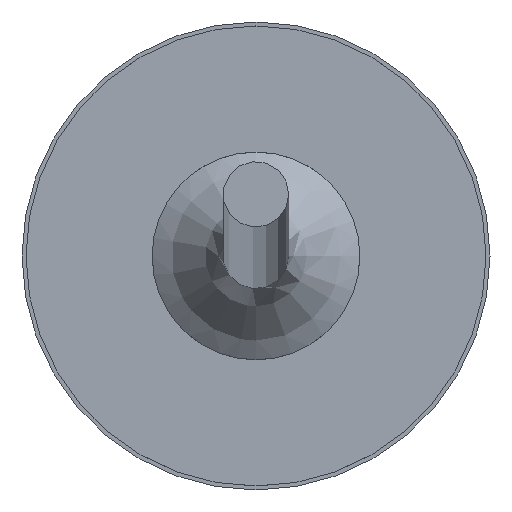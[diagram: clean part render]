
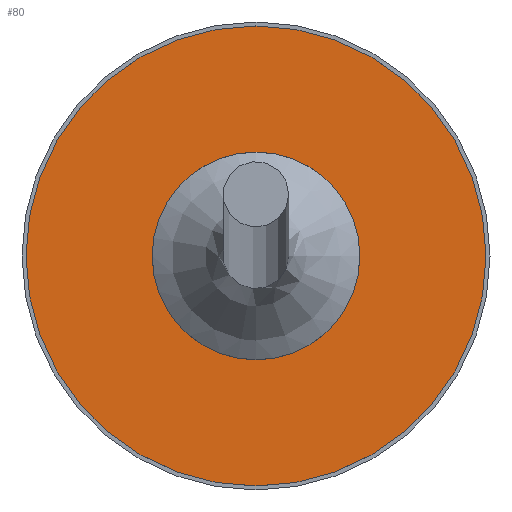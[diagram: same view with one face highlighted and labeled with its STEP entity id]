
A CAD part, top view. The second image highlights one B-rep face of the part: STEP entity #80.
In plain terms, the highlighted planar face has unit normal (0, 0, 1).
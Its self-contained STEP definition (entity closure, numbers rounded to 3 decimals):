
#59 = EDGE_CURVE('',#60,#60,#62,.T.);
#60 = VERTEX_POINT('',#61);
#61 = CARTESIAN_POINT('',(4.427,0.,0.));
#62 = CIRCLE('',#63,4.427);
#63 = AXIS2_PLACEMENT_3D('',#64,#65,#66);
#64 = CARTESIAN_POINT('',(0.,0.,0.));
#65 = DIRECTION('',(0.,0.,-1.));
#66 = DIRECTION('',(1.,0.,0.));
#80 = ADVANCED_FACE('',(#81,#84),#95,.T.);
#81 = FACE_BOUND('',#82,.T.);
#82 = EDGE_LOOP('',(#83));
#83 = ORIENTED_EDGE('',*,*,#59,.T.);
#84 = FACE_BOUND('',#85,.T.);
#85 = EDGE_LOOP('',(#86));
#86 = ORIENTED_EDGE('',*,*,#87,.F.);
#87 = EDGE_CURVE('',#88,#88,#90,.T.);
#88 = VERTEX_POINT('',#89);
#89 = CARTESIAN_POINT('',(9.802,0.,0.));
#90 = CIRCLE('',#91,9.802);
#91 = AXIS2_PLACEMENT_3D('',#92,#93,#94);
#92 = CARTESIAN_POINT('',(0.,0.,0.));
#93 = DIRECTION('',(0.,0.,-1.));
#94 = DIRECTION('',(1.,0.,0.));
#95 = PLANE('',#96);
#96 = AXIS2_PLACEMENT_3D('',#97,#98,#99);
#97 = CARTESIAN_POINT('',(0.,0.,0.));
#98 = DIRECTION('',(0.,0.,1.));
#99 = DIRECTION('',(-1.,0.,0.));
